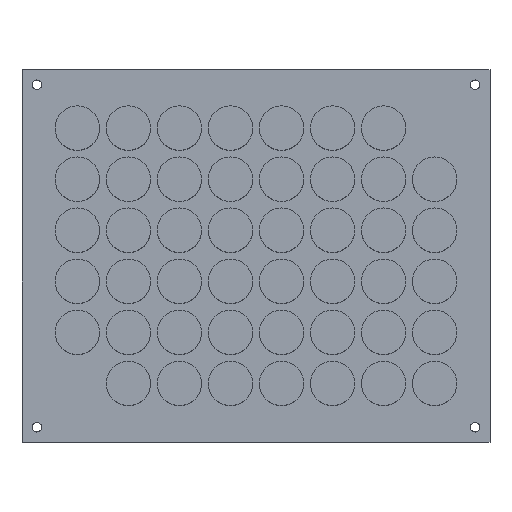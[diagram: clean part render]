
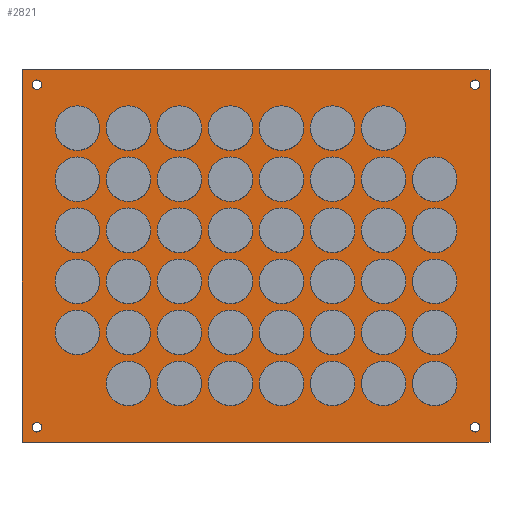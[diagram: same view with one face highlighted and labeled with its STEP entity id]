
A CAD part, top view. The second image highlights one B-rep face of the part: STEP entity #2821.
In plain terms, the highlighted planar face has unit normal (0, 0, 1).
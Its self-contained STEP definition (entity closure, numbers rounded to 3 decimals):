
#40 = CARTESIAN_POINT ( 'NONE',  ( 215.25, 168., 2. ) ) ;
#93 = CARTESIAN_POINT ( 'NONE',  ( 0., 0., 2. ) ) ;
#165 = FACE_BOUND ( 'NONE', #2910, .T. ) ;
#212 = DIRECTION ( 'NONE',  ( 0., 0., -1. ) ) ;
#233 = CIRCLE ( 'NONE', #2949, 2.25 ) ;
#285 = CARTESIAN_POINT ( 'NONE',  ( 0., 0., 2. ) ) ;
#303 = VERTEX_POINT ( 'NONE', #1757 ) ;
#339 = ORIENTED_EDGE ( 'NONE', *, *, #745, .T. ) ;
#347 = AXIS2_PLACEMENT_3D ( 'NONE', #1319, #3744, #1426 ) ;
#380 = CIRCLE ( 'NONE', #1213, 2.25 ) ;
#416 = LINE ( 'NONE', #2674, #741 ) ;
#437 = LINE ( 'NONE', #93, #800 ) ;
#443 = AXIS2_PLACEMENT_3D ( 'NONE', #1222, #2504, #822 ) ;
#455 = EDGE_CURVE ( 'NONE', #303, #488, #3026, .T. ) ;
#472 = FACE_BOUND ( 'NONE', #2006, .T. ) ;
#478 = AXIS2_PLACEMENT_3D ( 'NONE', #2569, #3887, #907 ) ;
#488 = VERTEX_POINT ( 'NONE', #1317 ) ;
#573 = VERTEX_POINT ( 'NONE', #2249 ) ;
#588 = CIRCLE ( 'NONE', #3781, 2.25 ) ;
#608 = EDGE_CURVE ( 'NONE', #2989, #1647, #588, .T. ) ;
#649 = EDGE_CURVE ( 'NONE', #3600, #1414, #895, .T. ) ;
#711 = EDGE_LOOP ( 'NONE', ( #3955, #3016 ) ) ;
#741 = VECTOR ( 'NONE', #1750, 1000. ) ;
#745 = EDGE_CURVE ( 'NONE', #1303, #2631, #416, .T. ) ;
#799 = DIRECTION ( 'NONE',  ( -1., 0., 0. ) ) ;
#800 = VECTOR ( 'NONE', #2756, 1000. ) ;
#822 = DIRECTION ( 'NONE',  ( 1., 0., 0. ) ) ;
#870 = CARTESIAN_POINT ( 'NONE',  ( 7., 7., 2. ) ) ;
#892 = DIRECTION ( 'NONE',  ( 1., 0., 0. ) ) ;
#895 = LINE ( 'NONE', #285, #3719 ) ;
#907 = DIRECTION ( 'NONE',  ( 1., 0., 0. ) ) ;
#1015 = ORIENTED_EDGE ( 'NONE', *, *, #3720, .F. ) ;
#1045 = CIRCLE ( 'NONE', #347, 2.25 ) ;
#1070 = CARTESIAN_POINT ( 'NONE',  ( 7., 7., 2. ) ) ;
#1123 = CIRCLE ( 'NONE', #3548, 2.25 ) ;
#1156 = DIRECTION ( 'NONE',  ( 0., 0., 1. ) ) ;
#1173 = CARTESIAN_POINT ( 'NONE',  ( 0., 0., 2. ) ) ;
#1176 = LINE ( 'NONE', #1503, #2115 ) ;
#1213 = AXIS2_PLACEMENT_3D ( 'NONE', #1070, #3030, #2397 ) ;
#1222 = CARTESIAN_POINT ( 'NONE',  ( 7., 168., 2. ) ) ;
#1294 = ORIENTED_EDGE ( 'NONE', *, *, #2233, .F. ) ;
#1298 = DIRECTION ( 'NONE',  ( 1., 0., 0. ) ) ;
#1303 = VERTEX_POINT ( 'NONE', #2995 ) ;
#1317 = CARTESIAN_POINT ( 'NONE',  ( 215.25, 7., 2. ) ) ;
#1319 = CARTESIAN_POINT ( 'NONE',  ( 7., 168., 2. ) ) ;
#1359 = EDGE_LOOP ( 'NONE', ( #2297, #1294 ) ) ;
#1414 = VERTEX_POINT ( 'NONE', #4032 ) ;
#1425 = CIRCLE ( 'NONE', #443, 2.25 ) ;
#1426 = DIRECTION ( 'NONE',  ( 1., 0., 0. ) ) ;
#1448 = ORIENTED_EDGE ( 'NONE', *, *, #649, .T. ) ;
#1503 = CARTESIAN_POINT ( 'NONE',  ( 220., 0., 2. ) ) ;
#1521 = FACE_BOUND ( 'NONE', #711, .T. ) ;
#1545 = EDGE_CURVE ( 'NONE', #2631, #3600, #437, .T. ) ;
#1564 = CARTESIAN_POINT ( 'NONE',  ( 9.25, 7., 2. ) ) ;
#1589 = CARTESIAN_POINT ( 'NONE',  ( 210.75, 168., 2. ) ) ;
#1592 = DIRECTION ( 'NONE',  ( 1., 0., 0. ) ) ;
#1647 = VERTEX_POINT ( 'NONE', #1589 ) ;
#1750 = DIRECTION ( 'NONE',  ( -1., 0., 0. ) ) ;
#1757 = CARTESIAN_POINT ( 'NONE',  ( 210.75, 7., 2. ) ) ;
#1808 = DIRECTION ( 'NONE',  ( 1., 0., 0. ) ) ;
#1811 = EDGE_CURVE ( 'NONE', #488, #303, #1123, .T. ) ;
#1829 = DIRECTION ( 'NONE',  ( 0., 1., 0. ) ) ;
#1837 = EDGE_LOOP ( 'NONE', ( #3346, #1448, #2204, #339 ) ) ;
#1885 = DIRECTION ( 'NONE',  ( 0., 0., 1. ) ) ;
#1937 = CARTESIAN_POINT ( 'NONE',  ( 4.75, 168., 2. ) ) ;
#1993 = CARTESIAN_POINT ( 'NONE',  ( 213., 168., 2. ) ) ;
#2006 = EDGE_LOOP ( 'NONE', ( #1015, #2907 ) ) ;
#2115 = VECTOR ( 'NONE', #1829, 1000. ) ;
#2133 = PLANE ( 'NONE',  #2798 ) ;
#2204 = ORIENTED_EDGE ( 'NONE', *, *, #3908, .T. ) ;
#2226 = VERTEX_POINT ( 'NONE', #1564 ) ;
#2233 = EDGE_CURVE ( 'NONE', #1647, #2989, #2499, .T. ) ;
#2249 = CARTESIAN_POINT ( 'NONE',  ( 4.75, 7., 2. ) ) ;
#2297 = ORIENTED_EDGE ( 'NONE', *, *, #608, .F. ) ;
#2372 = EDGE_CURVE ( 'NONE', #4227, #3006, #1425, .T. ) ;
#2397 = DIRECTION ( 'NONE',  ( 1., 0., 0. ) ) ;
#2499 = CIRCLE ( 'NONE', #478, 2.25 ) ;
#2504 = DIRECTION ( 'NONE',  ( 0., 0., 1. ) ) ;
#2557 = CARTESIAN_POINT ( 'NONE',  ( 213., 7., 2. ) ) ;
#2569 = CARTESIAN_POINT ( 'NONE',  ( 213., 168., 2. ) ) ;
#2631 = VERTEX_POINT ( 'NONE', #3838 ) ;
#2674 = CARTESIAN_POINT ( 'NONE',  ( 0., 175., 2. ) ) ;
#2675 = CARTESIAN_POINT ( 'NONE',  ( 0., 0., 2. ) ) ;
#2683 = EDGE_CURVE ( 'NONE', #573, #2226, #380, .T. ) ;
#2756 = DIRECTION ( 'NONE',  ( 0., -1., 0. ) ) ;
#2798 = AXIS2_PLACEMENT_3D ( 'NONE', #1173, #212, #799 ) ;
#2821 = ADVANCED_FACE ( 'NONE', ( #165, #472, #1521, #4148, #3147 ), #2133, .F. ) ;
#2907 = ORIENTED_EDGE ( 'NONE', *, *, #2372, .F. ) ;
#2910 = EDGE_LOOP ( 'NONE', ( #3423, #4210 ) ) ;
#2949 = AXIS2_PLACEMENT_3D ( 'NONE', #870, #1156, #1808 ) ;
#2989 = VERTEX_POINT ( 'NONE', #40 ) ;
#2995 = CARTESIAN_POINT ( 'NONE',  ( 220., 175., 2. ) ) ;
#3006 = VERTEX_POINT ( 'NONE', #3998 ) ;
#3016 = ORIENTED_EDGE ( 'NONE', *, *, #2683, .F. ) ;
#3026 = CIRCLE ( 'NONE', #4123, 2.25 ) ;
#3030 = DIRECTION ( 'NONE',  ( 0., 0., 1. ) ) ;
#3147 = FACE_OUTER_BOUND ( 'NONE', #1837, .T. ) ;
#3201 = DIRECTION ( 'NONE',  ( 1., 0., 0. ) ) ;
#3312 = DIRECTION ( 'NONE',  ( 0., 0., 1. ) ) ;
#3346 = ORIENTED_EDGE ( 'NONE', *, *, #1545, .T. ) ;
#3423 = ORIENTED_EDGE ( 'NONE', *, *, #1811, .F. ) ;
#3548 = AXIS2_PLACEMENT_3D ( 'NONE', #2557, #3874, #892 ) ;
#3600 = VERTEX_POINT ( 'NONE', #2675 ) ;
#3719 = VECTOR ( 'NONE', #1298, 1000. ) ;
#3720 = EDGE_CURVE ( 'NONE', #3006, #4227, #1045, .T. ) ;
#3744 = DIRECTION ( 'NONE',  ( 0., 0., 1. ) ) ;
#3766 = CARTESIAN_POINT ( 'NONE',  ( 213., 7., 2. ) ) ;
#3781 = AXIS2_PLACEMENT_3D ( 'NONE', #1993, #3312, #1592 ) ;
#3838 = CARTESIAN_POINT ( 'NONE',  ( 0., 175., 2. ) ) ;
#3874 = DIRECTION ( 'NONE',  ( 0., 0., 1. ) ) ;
#3887 = DIRECTION ( 'NONE',  ( 0., 0., 1. ) ) ;
#3908 = EDGE_CURVE ( 'NONE', #1414, #1303, #1176, .T. ) ;
#3915 = EDGE_CURVE ( 'NONE', #2226, #573, #233, .T. ) ;
#3955 = ORIENTED_EDGE ( 'NONE', *, *, #3915, .F. ) ;
#3998 = CARTESIAN_POINT ( 'NONE',  ( 9.25, 168., 2. ) ) ;
#4032 = CARTESIAN_POINT ( 'NONE',  ( 220., 0., 2. ) ) ;
#4123 = AXIS2_PLACEMENT_3D ( 'NONE', #3766, #1885, #3201 ) ;
#4148 = FACE_BOUND ( 'NONE', #1359, .T. ) ;
#4210 = ORIENTED_EDGE ( 'NONE', *, *, #455, .F. ) ;
#4227 = VERTEX_POINT ( 'NONE', #1937 ) ;
